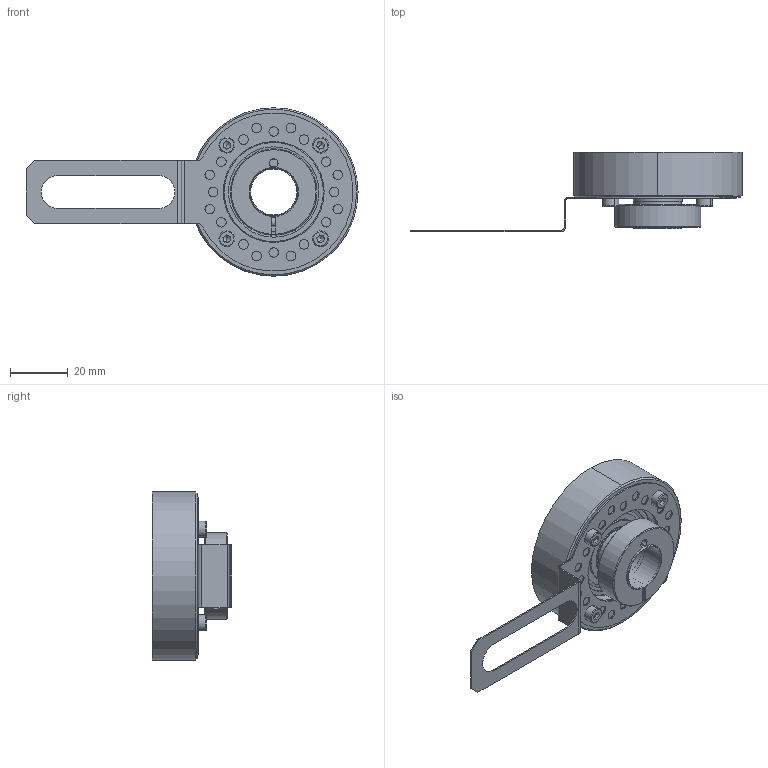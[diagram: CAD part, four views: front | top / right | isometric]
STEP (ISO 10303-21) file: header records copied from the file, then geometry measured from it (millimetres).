
FILE_DESCRIPTION (( 'STEP AP214' ), '1' );
FILE_NAME ('drawing-ucd-hgy0-q5b-n.STEP', '2017-02-03T16:13:18', ( '' ), ( '' ), 'SwSTEP 2.0', 'SolidWorks 2015', '' );
FILE_SCHEMA (( 'AUTOMOTIVE_DESIGN' ));
Length unit declared in the file: millimetre
Products named in the file (1): drawing-ucd-hgy0-q5b-n
Bounding box: 115.25 x 27.5 x 58.5 mm (x, y, z)
Volume: 37784.9 mm3; surface area: 27339.1 mm2
Topology: 26 solids, 26 shells, 437 faces, 1011 edges, 585 vertices
Faces by surface type: cylinder 157, plane 126, cone 78, bspline 56, torus 20
Entity records: 18456 total; most frequent: CARTESIAN_POINT 3556, DIRECTION 2188, ORIENTED_EDGE 1894, EDGE_CURVE 947, AXIS2_PLACEMENT_3D 893, VERTEX_POINT 585, EDGE_LOOP 534, CIRCLE 511
